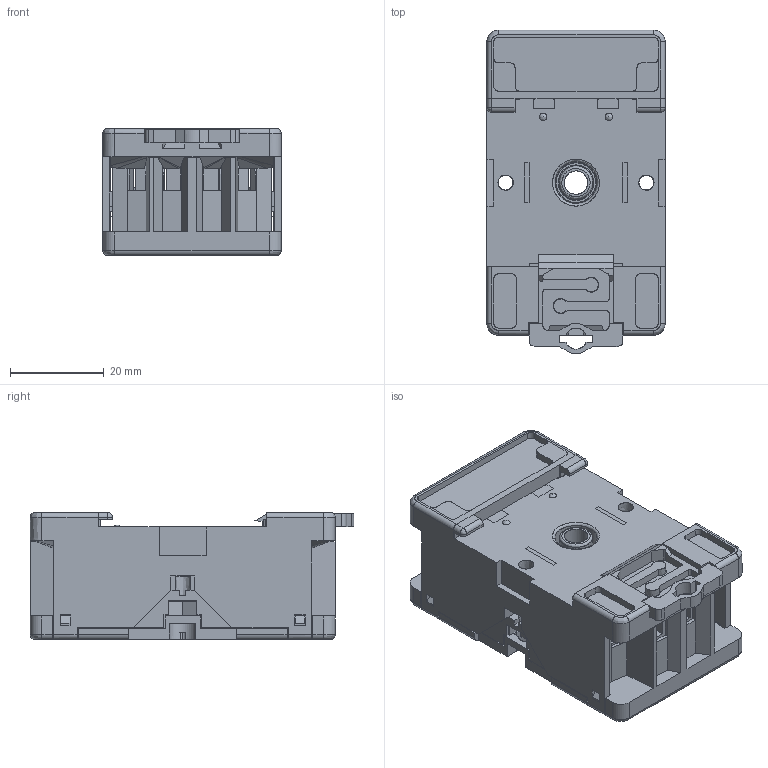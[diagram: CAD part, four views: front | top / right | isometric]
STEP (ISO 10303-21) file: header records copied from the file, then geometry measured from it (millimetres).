
FILE_DESCRIPTION(('STEP AP214'),'2;1');
FILE_NAME('90823 Octal_senza lamelle_OK.stp','2010-12-13T14:13:13',(''),(''),'2007.1.106','THINKDESIGN','');
FILE_SCHEMA(('AUTOMOTIVE_DESIGN'));
Products named in the file (1): None
Bounding box: 38 x 69 x 27 mm (x, y, z)
Surface area: 22203.4 mm2 (no closed solid volume)
Topology: 0 solids, 0 shells, 971 faces, 6088 edges, 6022 vertices
Faces by surface type: plane 544, bspline 313, cylinder 114
Full cylindrical faces by diameter (mm): 2.75 x8, 4.6 x8, 5.3 x8
Entity records: 63773 total; most frequent: CARTESIAN_POINT 23383, DIRECTION 6631, COMPOSITE_CURVE_SEGMENT 6084, TRIMMED_CURVE 4962, VECTOR 4657, LINE 4657, AXIS2_PLACEMENT_3D 987, OUTER_BOUNDARY_CURVE 971
